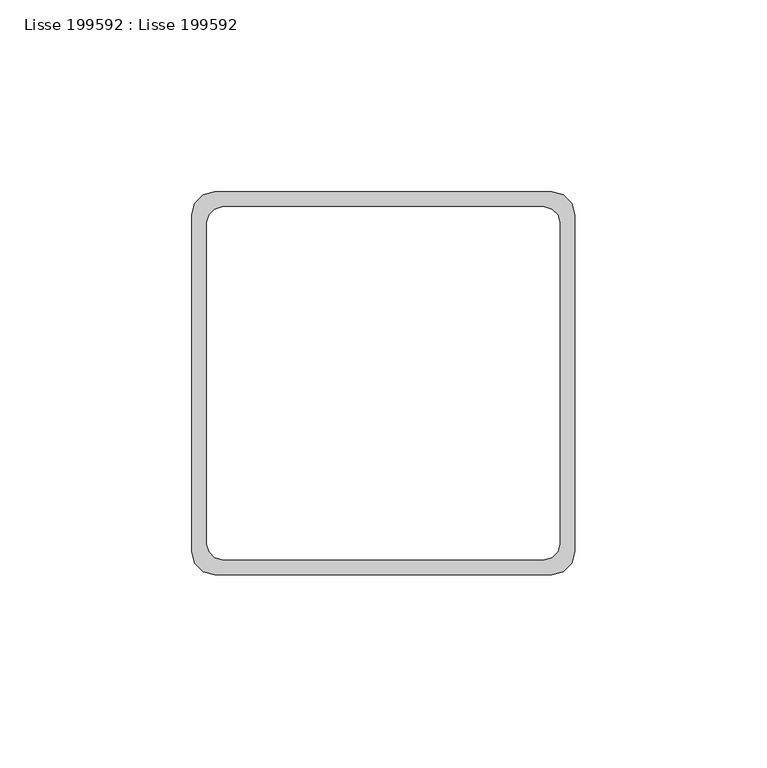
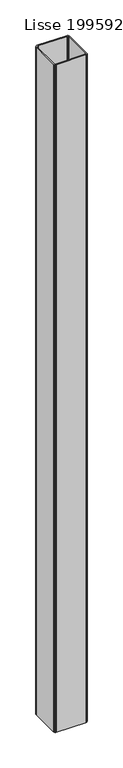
"""IFC4 building model written with IfcOpenShell, lengths in millimetres: beam geometry, Lisse 199592 : Lisse 199592."""

from ifc_helpers import new_model, si_unit, frame, origin, place, context, project, spatial, polyline, outline, extrude, source, transform, mapped, element, save


def lisse_199592_lisse_199592_85ba7587(model_context):
    return source(origin(), model_context, "Body", "SweptSolid", [
        extrude(outline(polyline([(-180.0000001, -7206.0), (-179.1961526, -7203.0), (-177.0000001, -7200.8038476), (-174.0000001, -7200.0), (-86.0000001, -7200.0), (-83.0000001, -7200.8038476), (-80.8038477, -7203.0), (-80.0000001, -7206.0), (-80.0000001, -7294.0), (-80.8038477, -7297.0), (-83.0000001, -7299.1961524), (-86.0000001, -7300.0), (-174.0000001, -7300.0), (-177.0000001, -7299.1961524), (-179.1961526, -7297.0), (-180.0000001, -7294.0), (-180.0000001, -7206.0)]), holes=[polyline([(-176.0000001, -7292.0), (-175.4641017, -7294.0), (-174.0000001, -7295.4641016), (-172.0000001, -7296.0), (-88.0000001, -7296.0), (-86.0000001, -7295.4641016), (-84.5358985, -7294.0), (-84.0000001, -7292.0), (-84.0000001, -7208.0), (-84.5358985, -7206.0), (-86.0000001, -7204.5358984), (-88.0000001, -7204.0), (-172.0000001, -7204.0), (-174.0000001, -7204.5358984), (-175.4641017, -7206.0), (-176.0000001, -7208.0), (-176.0000001, -7292.0)])]), frame((0.0, 0.0, 5000.0), z_axis=(0.0, 0.0, 1.0), x_axis=(1.0, 0.0, 0.0)), (0.0, 0.0, 1.0), 2100.0),
    ])


if __name__ == "__main__":
    model = new_model("IFC4")
    model_context = context("Model", 3, world=origin())
    ifc_project = project(units=[si_unit("LENGTHUNIT", "METRE", prefix="MILLI")], contexts=[model_context])
    site = spatial("IfcSite", under=ifc_project)
    building = spatial("IfcBuilding", under=site)
    placement = place(None, origin())
    lisse_199592_lisse_199592_shape = lisse_199592_lisse_199592_85ba7587(model_context)
    element("IfcBeam", 1, ObjectType="Lisse 199592 : Lisse 199592", at=placement, inside=building, context=model_context, shape_type="MappedRepresentation", body=[
        mapped(lisse_199592_lisse_199592_shape, transform((0.0, 0.0, 0.0), x_axis=(1.0, 0.0, 0.0), y_axis=(0.0, 1.0, 0.0), z_axis=(0.0, 0.0, 1.0))),
    ])
    save(model, "model.ifc")
